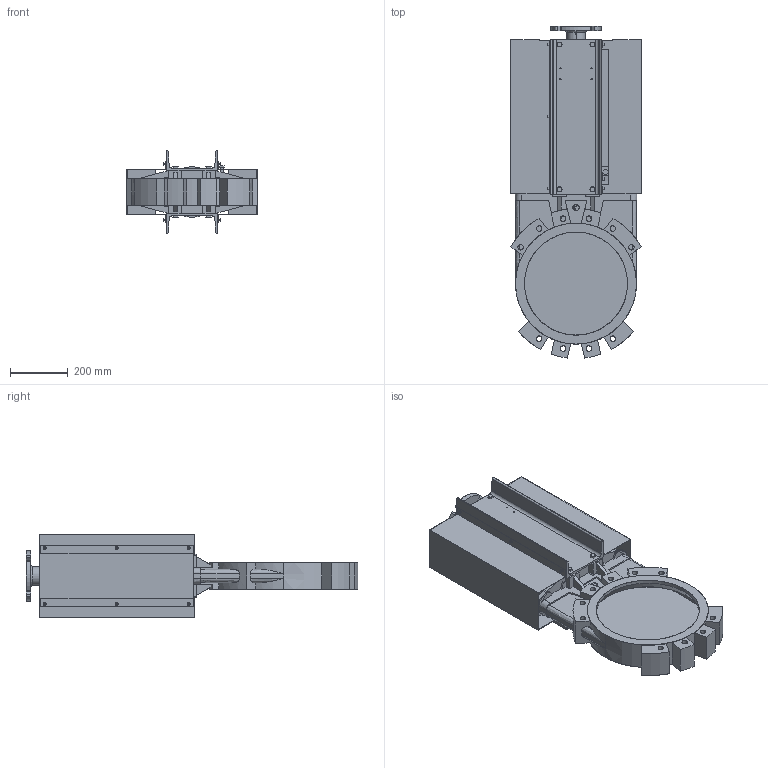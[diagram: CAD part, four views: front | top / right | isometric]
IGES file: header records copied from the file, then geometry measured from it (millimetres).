
Start section: SolidWorks IGES file using analytic representation for surfaces
Global section: file name: D:\part\3D Projects\VG-ELECTRICAL MOTOR(DN50-600)\AUMA\VG E A DN350\VG E A DN350.IGS; native system: SolidWorks 2009; preprocessor: SolidWorks 2009; author: zhixin.zheng; date: 100331.141949; units: millimetre
Bounding box: 454 x 1152.72 x 290 mm (x, y, z)
Surface area: 2835707.3 mm2 (no closed solid volume)
Topology: 0 solids, 0 shells, 1207 faces, 12077 edges, 12077 vertices
Faces by surface type: bspline 786, revolution 421
